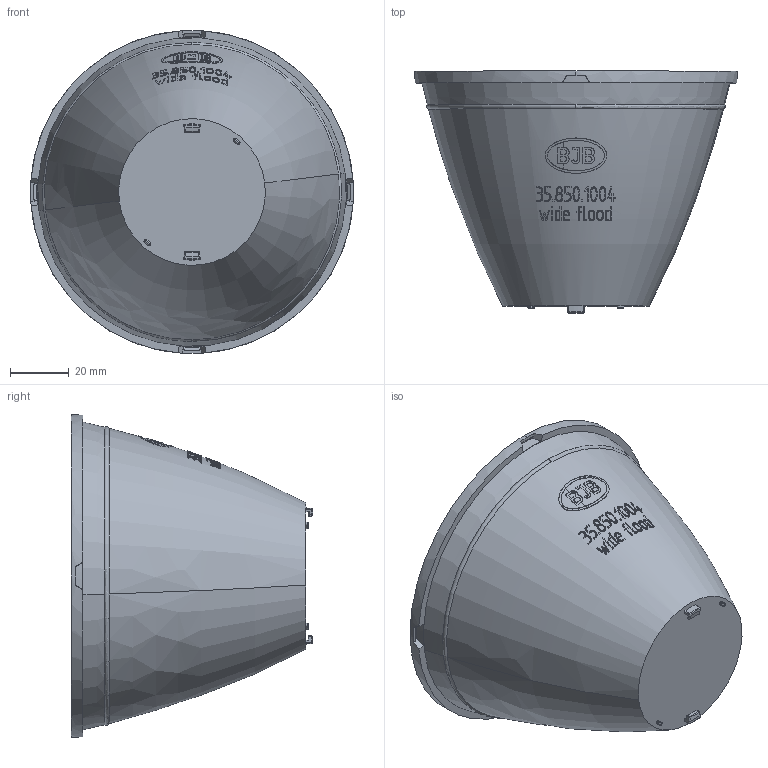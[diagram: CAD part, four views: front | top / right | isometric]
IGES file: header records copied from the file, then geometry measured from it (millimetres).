
Global section: file name: C:\CoreTechnologie\3D-In/022-J03-05.igs; native system: CT CoreTechnologie 3D Evolution; preprocessor: 2006; date: 1191118.145735; units: millimetre
Bounding box: 110 x 82.35 x 110 mm (x, y, z)
Volume: 446936.2 mm3; surface area: 34589.5 mm2
Topology: 1 solids, 1 shells, 325 faces, 823 edges, 530 vertices
Faces by surface type: plane 149, revolution 117, bspline 59
